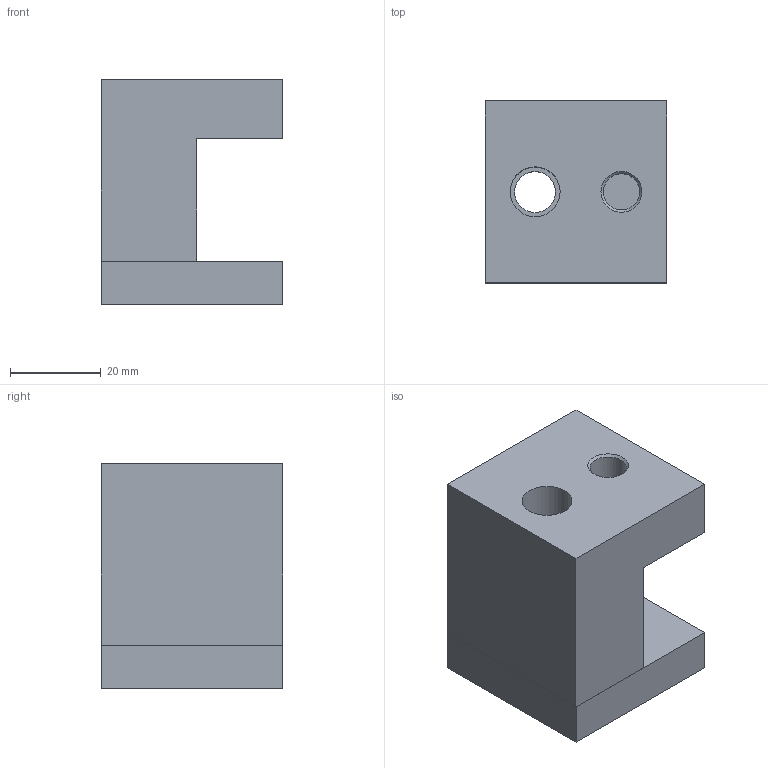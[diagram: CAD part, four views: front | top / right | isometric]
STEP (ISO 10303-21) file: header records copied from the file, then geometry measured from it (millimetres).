
FILE_DESCRIPTION(/* description */ (''),/* implementation_level */ '2;1');
FILE_NAME(/* name */ 'C:\Local Work Area\Progetti\AP\CALIBRI\08 Azzeratori\08.40.stp',/* time_stamp */ '2019-06-12T15:09:28+02:00',/* author */ ('CAD5'),/* organization */ (''),/* preprocessor_version */ 'ST-DEVELOPER v17.2',/* originating_system */ 'Autodesk Inventor 2019',/* authorisation */ '43005,1 mm^3');
FILE_SCHEMA (('AUTOMOTIVE_DESIGN { 1 0 10303 214 3 1 1 }'));
Length unit declared in the file: millimetre
Products named in the file (4): 08.40; 08.60; 08.41; UNI 5931 - M 5 x  12
Assembly tree (4 placements, depth 2):
  08.40
    08.60
    08.41
    UNI 5931 - M 5 x  12  x2
Bounding box: 40 x 40 x 49.5 mm (x, y, z)
Volume: 53065.2 mm3; surface area: 16548.1 mm2
Topology: 4 solids, 4 shells, 58 faces, 156 edges, 110 vertices
Faces by surface type: plane 34, cylinder 13, cone 7, torus 4
Full cylindrical faces by diameter (mm): 4.134 x2, 5 x2, 5.5 x2, 8 x1, 8.5 x2, 9 x1, 10 x2, 11 x1
Entity records: 1538 total; most frequent: CARTESIAN_POINT 258, DIRECTION 254, ORIENTED_EDGE 224, EDGE_CURVE 112, AXIS2_PLACEMENT_3D 98, VERTEX_POINT 81, EDGE_LOOP 59, LINE 58
